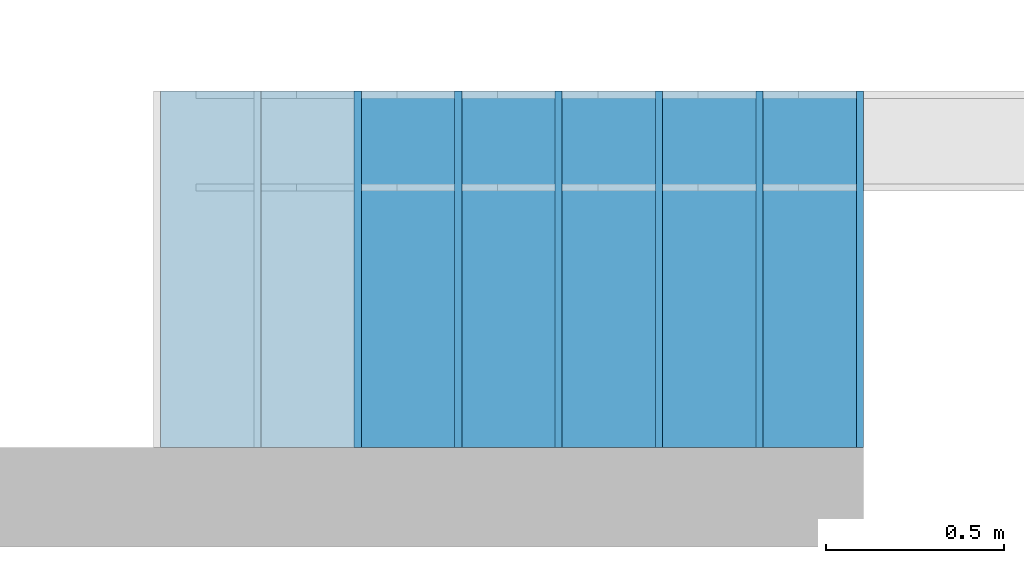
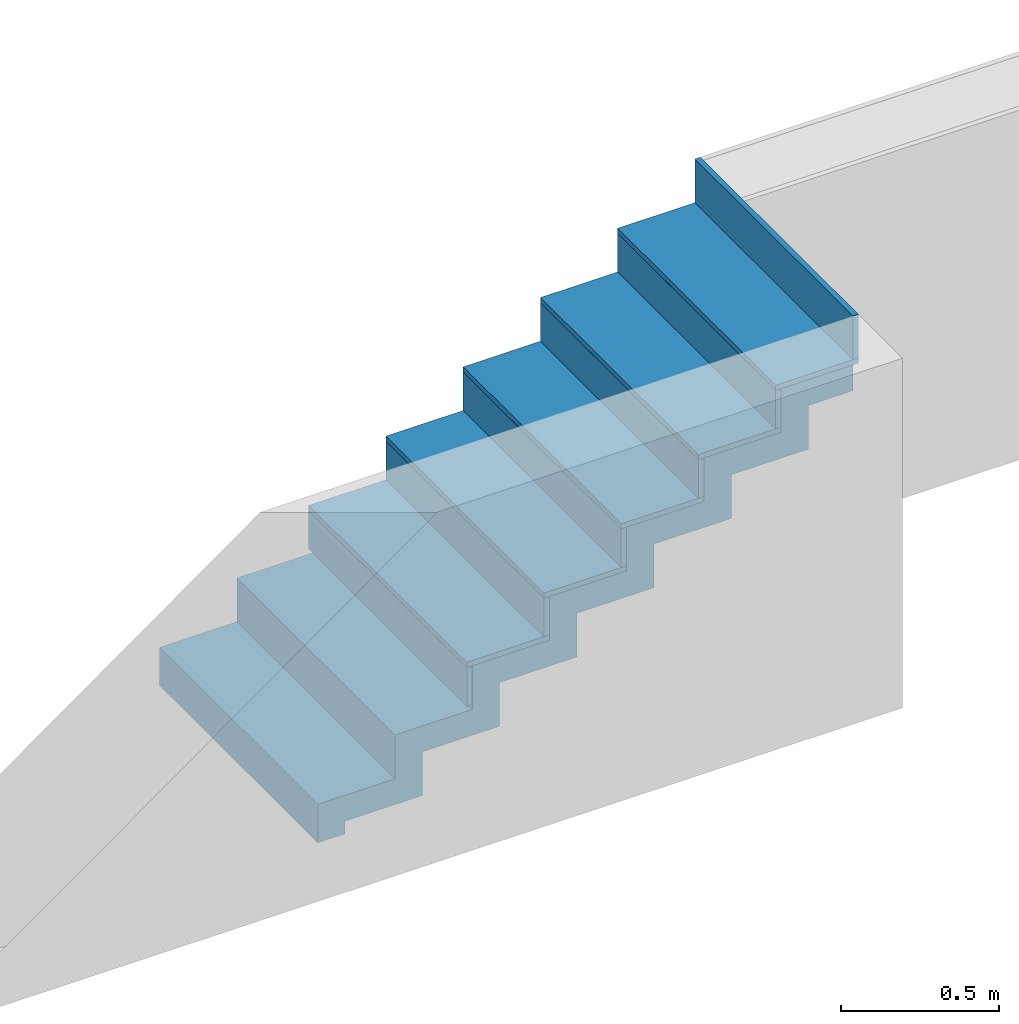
# One storey, part 9 of 16: 12 members, 1 element without a shape of its own.
"""IFC2X3 building model written with IfcOpenShell, lengths in millimetres."""

from ifc_helpers import new_model, entity, si_unit, converted_unit, derived_unit, money_unit, direction, frame, origin_with_axes, place, context, subcontext, project, spatial, faceted_brep, material, type_object, element, aggregate, save


model = new_model("IFC2X3")

# Units and contexts
model_context = context("Model", 3, precision=0.01, world=origin_with_axes(), true_north=direction((0.293984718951, 0.955810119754)))
body_context = subcontext(model_context, "Body", "Model", "MODEL_VIEW")
ifc_project = project(units=[si_unit("LENGTHUNIT", "METRE", prefix="MILLI"), si_unit("AREAUNIT", "SQUARE_METRE"), si_unit("VOLUMEUNIT", "CUBIC_METRE"), converted_unit("PLANEANGLEUNIT", "DEGREE", entity("IfcPlaneAngleMeasure", 0.0174532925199), si_unit("PLANEANGLEUNIT", "RADIAN"), dimensions=[0, 0, 0, 0, 0, 0, 0]), si_unit("SOLIDANGLEUNIT", "STERADIAN"), money_unit("USD"), converted_unit("TIMEUNIT", "Year", entity("IfcTimeMeasure", 31556926.0), si_unit("TIMEUNIT", "SECOND"), dimensions=[0, 0, 1, 0, 0, 0, 0]), si_unit("MASSUNIT", "GRAM", prefix="KILO"), si_unit("THERMODYNAMICTEMPERATUREUNIT", "DEGREE_CELSIUS"), si_unit("LUMINOUSINTENSITYUNIT", "LUMEN"), si_unit("ENERGYUNIT", "JOULE", prefix="MEGA"), derived_unit("THERMALCONDUCTANCEUNIT", [(si_unit("POWERUNIT", "WATT"), 1), (si_unit("LENGTHUNIT", "METRE"), -1), (si_unit("THERMODYNAMICTEMPERATUREUNIT", "KELVIN"), -1)]), derived_unit("SPECIFICHEATCAPACITYUNIT", [(si_unit("ENERGYUNIT", "JOULE"), 1), (si_unit("MASSUNIT", "GRAM", prefix="KILO"), -1), (si_unit("THERMODYNAMICTEMPERATUREUNIT", "KELVIN"), -1)]), derived_unit("MASSDENSITYUNIT", [(si_unit("MASSUNIT", "GRAM", prefix="KILO"), 1), (si_unit("VOLUMEUNIT", "CUBIC_METRE"), -1)])], contexts=[model_context])

# Site, building, storey
site_placement = place(None, origin_with_axes())
site = spatial("IfcSite", under=ifc_project, at=site_placement, Name="Local", CompositionType="ELEMENT")
building_placement = place(site_placement, origin_with_axes())
building = spatial("IfcBuilding", under=site, at=building_placement, Name="Construção", CompositionType="ELEMENT")
storey_placement = place(building_placement, origin_with_axes())
storey = spatial("IfcBuildingStorey", under=building, at=storey_placement, Name="Pavimento Térreo", CompositionType="ELEMENT", Elevation=0.0)

# Stair, members
stair_placement = place(storey_placement, frame((22649.6450727, 7250.63219788, 0.0), z_axis=(0.0, 0.0, 1.0), x_axis=(1.0, 0.0, 0.0)))
stair = element("IfcStair", 1, at=stair_placement, inside=storey, Name="Escada", ShapeType="NOTDEFINED")
ifc_material_1 = material(Name="Concreto Armado - Estrutural")
member_type = type_object("IfcMemberType", Name="IfcMember", PredefinedType="NOTDEFINED")
member_1_placement = place(stair_placement, origin_with_axes())
member_1 = element("IfcMember", 2, at=member_1_placement, type_object=member_type, material=ifc_material_1, Name="Lance - 022", context=body_context, shape_type="Brep", body=[
    faceted_brep([(1974.14048137, -1000.0, 1161.25), (1974.14048137, 0.0, 1161.25), (1712.22041795, 0.0, 1161.25), (1712.22041795, -1000.0, 1161.25), (1974.14048137, 0.0, 1061.25), (1974.14048137, -1000.0, 1061.25), (1812.22041795, 0.0, 1061.25), (1812.22041795, 0.0, 892.5), (1530.20034829, 0.0, 892.5), (1530.20034829, 0.0, 723.75), (1248.18027863, 0.0, 723.75), (1248.18027863, 0.0, 555.0), (966.160208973, 0.0, 555.0), (966.160208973, 0.0, 386.25), (684.140139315, 0.0, 386.25), (684.140139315, 0.0, 217.5), (402.120069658, 0.0, 217.5), (402.120069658, 0.0, 48.75), (120.1, 0.0, 48.75), (120.1, 0.0, 0.0), (20.1, 0.0, 0.0), (20.1, 0.0, 148.75), (302.120069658, 0.0, 148.75), (302.120069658, 0.0, 317.5), (584.140139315, 0.0, 317.5), (584.140139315, 0.0, 486.25), (866.160208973, 0.0, 486.25), (866.160208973, 0.0, 655.0), (1148.18027863, 0.0, 655.0), (1148.18027863, 0.0, 823.75), (1430.20034829, 0.0, 823.75), (1430.20034829, 0.0, 992.5), (1712.22041795, 0.0, 992.5), (1712.22041795, -1000.0, 992.5), (1430.20034829, -1000.0, 992.5), (1430.20034829, -1000.0, 823.75), (1148.18027863, -1000.0, 823.75), (1148.18027863, -1000.0, 655.0), (866.160208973, -1000.0, 655.0), (866.160208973, -1000.0, 486.25), (584.140139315, -1000.0, 486.25), (584.140139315, -1000.0, 317.5), (302.120069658, -1000.0, 317.5), (302.120069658, -1000.0, 148.75), (20.1, -1000.0, 148.75), (20.1, -1000.0, 0.0), (120.1, -1000.0, 0.0), (120.1, -1000.0, 48.75), (402.120069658, -1000.0, 48.75), (402.120069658, -1000.0, 217.5), (684.140139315, -1000.0, 217.5), (684.140139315, -1000.0, 386.25), (966.160208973, -1000.0, 386.25), (966.160208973, -1000.0, 555.0), (1248.18027863, -1000.0, 555.0), (1248.18027863, -1000.0, 723.75), (1530.20034829, -1000.0, 723.75), (1530.20034829, -1000.0, 892.5), (1812.22041795, -1000.0, 892.5), (1812.22041795, -1000.0, 1061.25)], [[[0, 1, 2, 3]], [[4, 1, 0, 5]], [[1, 4, 6, 7, 8, 9, 10, 11, 12, 13, 14, 15, 16, 17, 18, 19, 20, 21, 22, 23, 24, 25, 26, 27, 28, 29, 30, 31, 32, 2]], [[3, 2, 32, 33]], [[5, 0, 3, 33, 34, 35, 36, 37, 38, 39, 40, 41, 42, 43, 44, 45, 46, 47, 48, 49, 50, 51, 52, 53, 54, 55, 56, 57, 58, 59]], [[4, 5, 59, 6]], [[6, 59, 58, 7]], [[7, 58, 57, 8]], [[8, 57, 56, 9]], [[9, 56, 55, 10]], [[10, 55, 54, 11]], [[11, 54, 53, 12]], [[12, 53, 52, 13]], [[13, 52, 51, 14]], [[14, 51, 50, 15]], [[15, 50, 49, 16]], [[49, 48, 17, 16]], [[48, 47, 18, 17]], [[19, 18, 47, 46]], [[46, 45, 20, 19]], [[20, 45, 44, 21]], [[21, 44, 43, 22]], [[42, 23, 22, 43]], [[23, 42, 41, 24]], [[40, 25, 24, 41]], [[25, 40, 39, 26]], [[38, 27, 26, 39]], [[27, 38, 37, 28]], [[36, 29, 28, 37]], [[29, 36, 35, 30]], [[34, 31, 30, 35]], [[31, 34, 33, 32]]]),
])
ifc_material_2 = material(Name="Concreto - Contra Piso")
member_2_placement = place(stair_placement, frame((564.040139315, -500.0, 486.25), z_axis=(0.0, 0.0, 1.0), x_axis=(0.0, -1.0, 0.0)))
member_2 = element("IfcMember", 3, at=member_2_placement, type_object=member_type, material=ifc_material_2, Name="RISER-197", context=body_context, shape_type="Brep", body=[
    faceted_brep([(500.0, 0.0, 0.0), (500.0, 20.0, 0.0), (-500.0, 20.0, 0.0), (-500.0, 0.0, 0.0), (500.0, 0.0, -148.75), (500.0, 20.0, -148.75), (-500.0, 20.0, -148.75), (-500.0, 0.0, -148.75)], [[[0, 1, 2, 3]], [[0, 4, 5, 1]], [[1, 5, 6, 2]], [[3, 2, 6, 7]], [[4, 0, 3, 7]], [[5, 4, 7, 6]]]),
])
member_3_placement = place(stair_placement, frame((846.060208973, -500.0, 655.0), z_axis=(0.0, 0.0, 1.0), x_axis=(0.0, -1.0, 0.0)))
member_3 = element("IfcMember", 4, at=member_3_placement, type_object=member_type, material=ifc_material_2, Name="RISER-198", context=body_context, shape_type="Brep", body=[
    faceted_brep([(500.0, 0.0, 0.0), (500.0, 20.0, 0.0), (-500.0, 20.0, 0.0), (-500.0, 0.0, 0.0), (500.0, 0.0, -148.75), (500.0, 20.0, -148.75), (-500.0, 20.0, -148.75), (-500.0, 0.0, -148.75)], [[[0, 1, 2, 3]], [[0, 4, 5, 1]], [[1, 5, 6, 2]], [[3, 2, 6, 7]], [[4, 0, 3, 7]], [[5, 4, 7, 6]]]),
])
member_4_placement = place(stair_placement, frame((1128.08027863, -500.0, 823.75), z_axis=(0.0, 0.0, 1.0), x_axis=(0.0, -1.0, 0.0)))
member_4 = element("IfcMember", 5, at=member_4_placement, type_object=member_type, material=ifc_material_2, Name="RISER-199", context=body_context, shape_type="Brep", body=[
    faceted_brep([(500.0, 0.0, 0.0), (500.0, 20.0, 0.0), (-500.0, 20.0, 0.0), (-500.0, 0.0, 0.0), (500.0, 0.0, -148.75), (500.0, 20.0, -148.75), (-500.0, 20.0, -148.75), (-500.0, 0.0, -148.75)], [[[0, 1, 2, 3]], [[0, 4, 5, 1]], [[1, 5, 6, 2]], [[3, 2, 6, 7]], [[4, 0, 3, 7]], [[5, 4, 7, 6]]]),
])
member_5_placement = place(stair_placement, frame((1410.10034829, -500.0, 992.5), z_axis=(0.0, 0.0, 1.0), x_axis=(0.0, -1.0, 0.0)))
member_5 = element("IfcMember", 6, at=member_5_placement, type_object=member_type, material=ifc_material_2, Name="RISER-200", context=body_context, shape_type="Brep", body=[
    faceted_brep([(500.0, 0.0, 0.0), (500.0, 20.0, 0.0), (-500.0, 20.0, 0.0), (-500.0, 0.0, 0.0), (500.0, 0.0, -148.75), (500.0, 20.0, -148.75), (-500.0, 20.0, -148.75), (-500.0, 0.0, -148.75)], [[[0, 1, 2, 3]], [[0, 4, 5, 1]], [[1, 5, 6, 2]], [[3, 2, 6, 7]], [[4, 0, 3, 7]], [[5, 4, 7, 6]]]),
])
member_6_placement = place(stair_placement, frame((1692.12041795, -500.0, 1161.25), z_axis=(0.0, 0.0, 1.0), x_axis=(0.0, -1.0, 0.0)))
member_6 = element("IfcMember", 7, at=member_6_placement, type_object=member_type, material=ifc_material_2, Name="RISER-201", context=body_context, shape_type="Brep", body=[
    faceted_brep([(500.0, 0.0, 0.0), (500.0, 20.0, 0.0), (-500.0, 20.0, 0.0), (-500.0, 0.0, 0.0), (500.0, 0.0, -148.75), (500.0, 20.0, -148.75), (-500.0, 20.0, -148.75), (-500.0, 0.0, -148.75)], [[[0, 1, 2, 3]], [[0, 4, 5, 1]], [[1, 5, 6, 2]], [[3, 2, 6, 7]], [[4, 0, 3, 7]], [[5, 4, 7, 6]]]),
])
member_7_placement = place(stair_placement, frame((1974.1404876, -500.0, 1350.0), z_axis=(0.0, 0.0, 1.0), x_axis=(0.0, -1.0, 0.0)))
member_7 = element("IfcMember", 8, at=member_7_placement, type_object=member_type, material=ifc_material_2, Name="RISER-202", context=body_context, shape_type="Brep", body=[
    faceted_brep([(500.0, 0.0, 0.0), (500.0, 20.0, 0.0), (-500.0, 20.0, 0.0), (-500.0, 0.0, 0.0), (500.0, 0.0, -168.75), (500.0, 20.0, -168.75), (-500.0, 20.0, -168.75), (-500.0, 0.0, -168.75)], [[[0, 1, 2, 3]], [[0, 4, 5, 1]], [[1, 5, 6, 2]], [[3, 2, 6, 7]], [[4, 0, 3, 7]], [[5, 4, 7, 6]]]),
])
member_8_placement = place(stair_placement, frame((564.040139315, -500.0, 506.25), z_axis=(0.0, 0.0, 1.0), x_axis=(0.0, -1.0, 0.0)))
member_8 = element("IfcMember", 9, at=member_8_placement, type_object=member_type, material=ifc_material_2, Name="Piso Esc. - 165", context=body_context, shape_type="Brep", body=[
    faceted_brep([(-500.0, 0.0, -20.0), (500.0, 0.0, -20.0), (500.0, 0.0, 0.0), (-500.0, 0.0, 0.0), (-500.0, 302.020062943, -20.0), (500.0, 302.020062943, -20.0), (500.0, 302.020062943, 0.0), (-500.0, 302.020062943, 0.0)], [[[0, 1, 2, 3]], [[0, 4, 5, 1]], [[1, 5, 6, 2]], [[3, 2, 6, 7]], [[4, 0, 3, 7]], [[5, 4, 7, 6]]]),
])
member_9_placement = place(stair_placement, frame((846.060208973, -500.0, 675.0), z_axis=(0.0, 0.0, 1.0), x_axis=(0.0, -1.0, 0.0)))
member_9 = element("IfcMember", 10, at=member_9_placement, type_object=member_type, material=ifc_material_2, Name="Piso Esc. - 166", context=body_context, shape_type="Brep", body=[
    faceted_brep([(-500.0, 0.0, -20.0), (500.0, 0.0, -20.0), (500.0, 0.0, 0.0), (-500.0, 0.0, 0.0), (-500.0, 302.020062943, -20.0), (500.0, 302.020062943, -20.0), (500.0, 302.020062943, 0.0), (-500.0, 302.020062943, 0.0)], [[[0, 1, 2, 3]], [[0, 4, 5, 1]], [[1, 5, 6, 2]], [[3, 2, 6, 7]], [[4, 0, 3, 7]], [[5, 4, 7, 6]]]),
])
member_10_placement = place(stair_placement, frame((1128.08027863, -500.0, 843.75), z_axis=(0.0, 0.0, 1.0), x_axis=(0.0, -1.0, 0.0)))
member_10 = element("IfcMember", 11, at=member_10_placement, type_object=member_type, material=ifc_material_2, Name="Piso Esc. - 167", context=body_context, shape_type="Brep", body=[
    faceted_brep([(-500.0, 0.0, -20.0), (500.0, 0.0, -20.0), (500.0, 0.0, 0.0), (-500.0, 0.0, 0.0), (-500.0, 302.020062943, -20.0), (500.0, 302.020062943, -20.0), (500.0, 302.020062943, 0.0), (-500.0, 302.020062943, 0.0)], [[[0, 1, 2, 3]], [[0, 4, 5, 1]], [[1, 5, 6, 2]], [[3, 2, 6, 7]], [[4, 0, 3, 7]], [[5, 4, 7, 6]]]),
])
member_11_placement = place(stair_placement, frame((1410.10034829, -500.0, 1012.5), z_axis=(0.0, 0.0, 1.0), x_axis=(0.0, -1.0, 0.0)))
member_11 = element("IfcMember", 12, at=member_11_placement, type_object=member_type, material=ifc_material_2, Name="Piso Esc. - 168", context=body_context, shape_type="Brep", body=[
    faceted_brep([(-500.0, 0.0, -20.0), (500.0, 0.0, -20.0), (500.0, 0.0, 0.0), (-500.0, 0.0, 0.0), (-500.0, 302.020062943, -20.0), (500.0, 302.020062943, -20.0), (500.0, 302.020062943, 0.0), (-500.0, 302.020062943, 0.0)], [[[0, 1, 2, 3]], [[0, 4, 5, 1]], [[1, 5, 6, 2]], [[3, 2, 6, 7]], [[4, 0, 3, 7]], [[5, 4, 7, 6]]]),
])
member_12_placement = place(stair_placement, frame((1692.12041795, -500.0, 1181.25), z_axis=(0.0, 0.0, 1.0), x_axis=(0.0, -1.0, 0.0)))
member_12 = element("IfcMember", 13, at=member_12_placement, type_object=member_type, material=ifc_material_2, Name="Piso Esc. - 169", context=body_context, shape_type="Brep", body=[
    faceted_brep([(-500.0, 0.0, -20.0), (500.0, 0.0, -20.0), (500.0, 0.0, 0.0), (-500.0, 0.0, 0.0), (-500.0, 282.020069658, -20.0), (-500.0, 302.020069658, -20.0), (500.0, 302.020069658, -20.0), (500.0, 282.020069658, -20.0), (500.0, 282.020069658, 0.0), (500.0, 302.020069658, 0.0), (-500.0, 302.020069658, 0.0), (-500.0, 282.020069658, 0.0)], [[[0, 1, 2, 3]], [[0, 4, 5, 6, 7, 1]], [[1, 7, 8, 2]], [[3, 2, 8, 9, 10, 11]], [[4, 0, 3, 11]], [[5, 4, 11, 10]], [[6, 5, 10, 9]], [[7, 6, 9, 8]]]),
])
aggregate(stair, [member_1, member_2, member_3, member_4, member_5, member_6, member_7, member_8, member_9, member_10, member_11, member_12])

save(model, "model.ifc")
